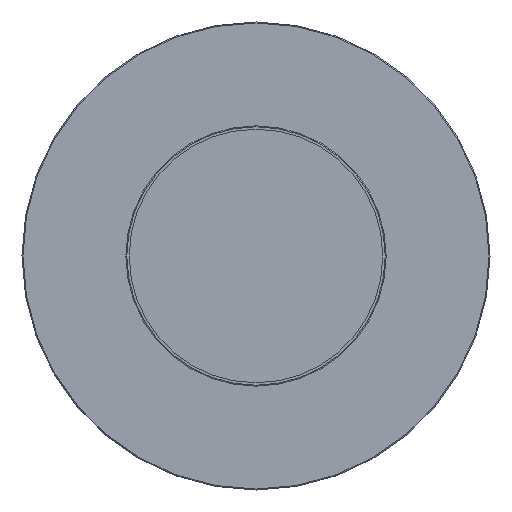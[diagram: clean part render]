
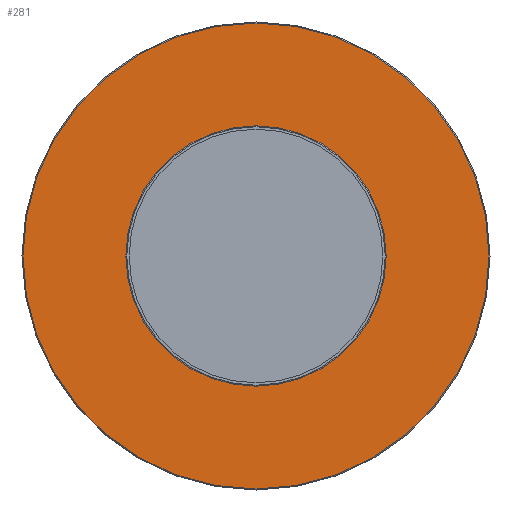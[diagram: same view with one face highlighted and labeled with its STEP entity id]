
A CAD part, front view. The second image highlights one B-rep face of the part: STEP entity #281.
In plain terms, the highlighted planar face has unit normal (0, -1, 0).
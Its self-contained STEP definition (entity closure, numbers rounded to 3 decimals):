
#110=CARTESIAN_POINT('',(0.,657.451,-19.75));
#111=VERTEX_POINT('',#110);
#112=CARTESIAN_POINT('',(0.,657.451,0.));
#113=DIRECTION('',(0.0,1.0,0.0));
#114=DIRECTION('',(0.0,0.0,1.0));
#115=AXIS2_PLACEMENT_3D('',#112,#113,#114);
#116=CIRCLE('',#115,19.75);
#117=EDGE_CURVE('',#111,#111,#116,.T.);
#258=CARTESIAN_POINT('',(0.,657.451,-239.0));
#259=VERTEX_POINT('',#258);
#260=CARTESIAN_POINT('',(0.,657.451,0.));
#261=DIRECTION('',(0.0,1.0,0.0));
#262=DIRECTION('',(0.0,0.0,1.0));
#263=AXIS2_PLACEMENT_3D('',#260,#261,#262);
#264=CIRCLE('',#263,239.0);
#265=EDGE_CURVE('',#259,#259,#264,.T.);
#270=CARTESIAN_POINT('',(0.,657.451,0.));
#271=DIRECTION('',(0.0,-1.0,0.0));
#272=DIRECTION('',(0.0,0.0,1.0));
#273=AXIS2_PLACEMENT_3D('',#270,#271,#272);
#274=PLANE('',#273);
#275=ORIENTED_EDGE('',*,*,#265,.F.);
#276=EDGE_LOOP('',(#275));
#277=FACE_OUTER_BOUND('',#276,.T.);
#278=ORIENTED_EDGE('',*,*,#117,.T.);
#279=EDGE_LOOP('',(#278));
#280=FACE_BOUND('',#279,.T.);
#281=ADVANCED_FACE('',(#277,#280),#274,.T.);
